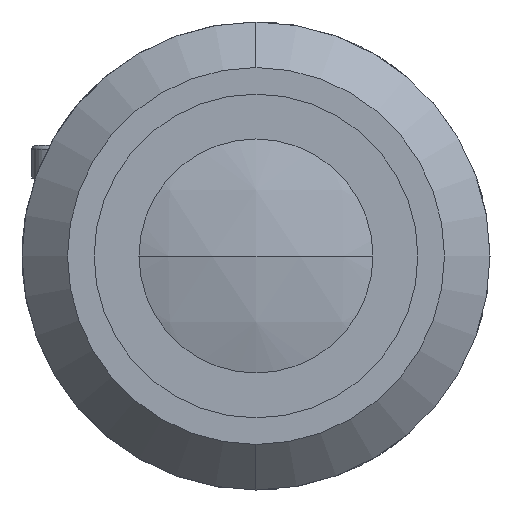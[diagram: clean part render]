
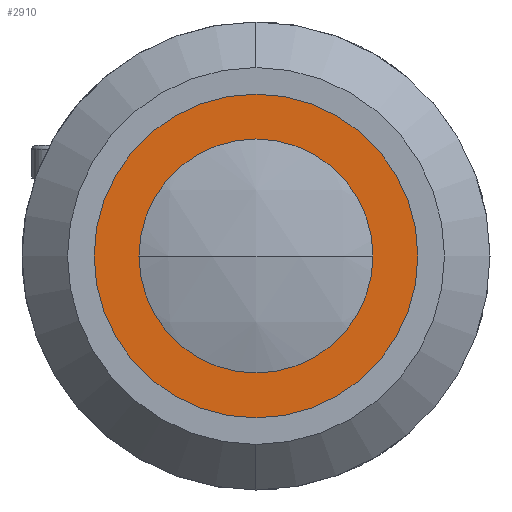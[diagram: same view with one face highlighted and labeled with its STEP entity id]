
A CAD part, left-side view. The second image highlights one B-rep face of the part: STEP entity #2910.
In plain terms, the highlighted planar face has unit normal (-1, 0, 0).
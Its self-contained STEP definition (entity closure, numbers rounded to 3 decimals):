
#266 = DIRECTION ( 'NONE',  ( 0., 0., 1. ) ) ;
#289 = CARTESIAN_POINT ( 'NONE',  ( 3.5, 0., 9. ) ) ;
#553 = CARTESIAN_POINT ( 'NONE',  ( 3.5, 0., 0. ) ) ;
#651 = FACE_BOUND ( 'NONE', #1605, .T. ) ;
#697 = EDGE_CURVE ( 'NONE', #2907, #2854, #3302, .T. ) ;
#705 = FACE_OUTER_BOUND ( 'NONE', #934, .T. ) ;
#762 = EDGE_CURVE ( 'NONE', #2854, #2907, #3008, .T. ) ;
#855 = DIRECTION ( 'NONE',  ( 0., 0., 1. ) ) ;
#862 = CARTESIAN_POINT ( 'NONE',  ( 3.5, 0., -9. ) ) ;
#888 = CARTESIAN_POINT ( 'NONE',  ( 3.5, 13.2, 0. ) ) ;
#919 = EDGE_CURVE ( 'NONE', #3159, #2771, #2603, .T. ) ;
#934 = EDGE_LOOP ( 'NONE', ( #1284, #1295 ) ) ;
#970 = CARTESIAN_POINT ( 'NONE',  ( 3.5, 0., 0. ) ) ;
#1134 = CARTESIAN_POINT ( 'NONE',  ( 3.5, 0., 0. ) ) ;
#1188 = DIRECTION ( 'NONE',  ( 1., 0., 0. ) ) ;
#1236 = ORIENTED_EDGE ( 'NONE', *, *, #697, .F. ) ;
#1240 = ORIENTED_EDGE ( 'NONE', *, *, #762, .F. ) ;
#1264 = DIRECTION ( 'NONE',  ( 0., 0., 1. ) ) ;
#1273 = EDGE_CURVE ( 'NONE', #2771, #3159, #1643, .T. ) ;
#1284 = ORIENTED_EDGE ( 'NONE', *, *, #919, .T. ) ;
#1295 = ORIENTED_EDGE ( 'NONE', *, *, #1273, .T. ) ;
#1423 = DIRECTION ( 'NONE',  ( 0., 0., 1. ) ) ;
#1605 = EDGE_LOOP ( 'NONE', ( #1236, #1240 ) ) ;
#1643 = CIRCLE ( 'NONE', #1696, 13.2 ) ;
#1696 = AXIS2_PLACEMENT_3D ( 'NONE', #553, #2612, #855 ) ;
#2033 = DIRECTION ( 'NONE',  ( -1., 0., 0. ) ) ;
#2054 = CARTESIAN_POINT ( 'NONE',  ( 3.5, 0., 13.2 ) ) ;
#2287 = CARTESIAN_POINT ( 'NONE',  ( 3.5, 0., -13.2 ) ) ;
#2415 = AXIS2_PLACEMENT_3D ( 'NONE', #970, #3006, #1264 ) ;
#2603 = CIRCLE ( 'NONE', #2415, 13.2 ) ;
#2612 = DIRECTION ( 'NONE',  ( -1., 0., 0. ) ) ;
#2637 = AXIS2_PLACEMENT_3D ( 'NONE', #3671, #2033, #266 ) ;
#2771 = VERTEX_POINT ( 'NONE', #2287 ) ;
#2783 = AXIS2_PLACEMENT_3D ( 'NONE', #1134, #3171, #1423 ) ;
#2854 = VERTEX_POINT ( 'NONE', #862 ) ;
#2907 = VERTEX_POINT ( 'NONE', #289 ) ;
#2910 = ADVANCED_FACE ( 'NONE', ( #651, #705 ), #2925, .F. ) ;
#2925 = PLANE ( 'NONE',  #3496 ) ;
#3006 = DIRECTION ( 'NONE',  ( -1., 0., 0. ) ) ;
#3008 = CIRCLE ( 'NONE', #2637, 9. ) ;
#3159 = VERTEX_POINT ( 'NONE', #2054 ) ;
#3171 = DIRECTION ( 'NONE',  ( -1., 0., 0. ) ) ;
#3219 = DIRECTION ( 'NONE',  ( 0., 0., -1. ) ) ;
#3302 = CIRCLE ( 'NONE', #2783, 9. ) ;
#3496 = AXIS2_PLACEMENT_3D ( 'NONE', #888, #1188, #3219 ) ;
#3671 = CARTESIAN_POINT ( 'NONE',  ( 3.5, 0., 0. ) ) ;
